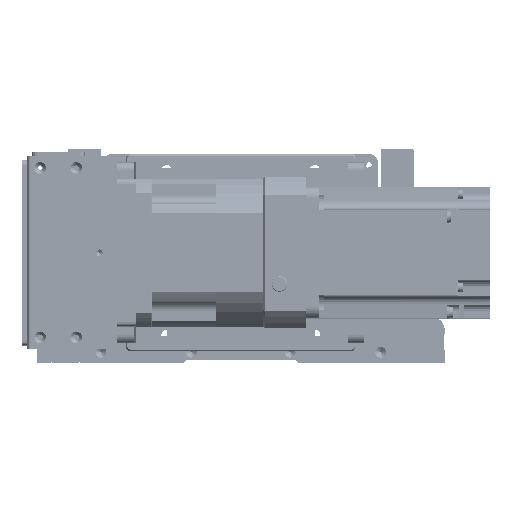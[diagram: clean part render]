
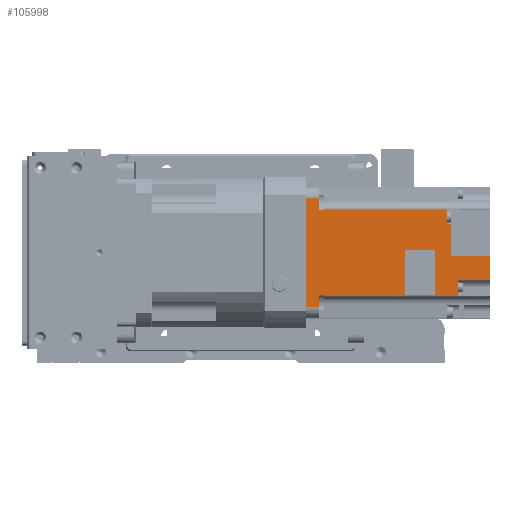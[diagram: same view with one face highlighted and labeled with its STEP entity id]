
A CAD part, front view. The second image highlights one B-rep face of the part: STEP entity #105998.
In plain terms, the highlighted planar face has unit normal (0, -1, 0.003).
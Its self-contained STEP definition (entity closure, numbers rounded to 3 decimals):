
#4772=PLANE('',#115152);
#11297=FACE_OUTER_BOUND('',#17511,.T.);
#17511=EDGE_LOOP('',(#89572,#89573,#89574,#89575,#89576,#89577,#89578,#89579,
#89580,#89581,#89582,#89583,#89584,#89585,#89586,#89587,#89588,#89589,#89590,
#89591,#89592,#89593,#89594,#89595,#89596,#89597));
#25786=LINE('',#169807,#37484);
#25787=LINE('',#169810,#37485);
#25792=LINE('',#169852,#37490);
#25796=LINE('',#169881,#37494);
#25799=LINE('',#169892,#37497);
#25800=LINE('',#169896,#37498);
#25801=LINE('',#169898,#37499);
#25802=LINE('',#169899,#37500);
#25803=LINE('',#169901,#37501);
#25804=LINE('',#169903,#37502);
#25805=LINE('',#169905,#37503);
#25806=LINE('',#169906,#37504);
#25807=LINE('',#169908,#37505);
#25808=LINE('',#169910,#37506);
#25809=LINE('',#169912,#37507);
#25810=LINE('',#169914,#37508);
#25811=LINE('',#169916,#37509);
#25812=LINE('',#169918,#37510);
#25813=LINE('',#169920,#37511);
#25814=LINE('',#169922,#37512);
#25815=LINE('',#169924,#37513);
#25816=LINE('',#169926,#37514);
#25817=LINE('',#169928,#37515);
#25818=LINE('',#169930,#37516);
#25819=LINE('',#169932,#37517);
#25820=LINE('',#169933,#37518);
#37484=VECTOR('',#135828,3.);
#37485=VECTOR('',#135831,0.009);
#37490=VECTOR('',#135870,0.009);
#37494=VECTOR('',#135900,7.342);
#37497=VECTOR('',#135911,8.);
#37498=VECTOR('',#135914,2.548);
#37499=VECTOR('',#135915,2.682);
#37500=VECTOR('',#135916,75.);
#37501=VECTOR('',#135917,66.);
#37502=VECTOR('',#135918,8.);
#37503=VECTOR('',#135919,7.342);
#37504=VECTOR('',#135920,3.);
#37505=VECTOR('',#135921,49.1);
#37506=VECTOR('',#135922,27.466);
#37507=VECTOR('',#135923,18.55);
#37508=VECTOR('',#135924,27.466);
#37509=VECTOR('',#135925,13.85);
#37510=VECTOR('',#135926,8.966);
#37511=VECTOR('',#135927,19.5);
#37512=VECTOR('',#135928,14.5);
#37513=VECTOR('',#135929,23.5);
#37514=VECTOR('',#135930,19.4);
#37515=VECTOR('',#135931,0.5);
#37516=VECTOR('',#135932,0.001);
#37517=VECTOR('',#135933,2.);
#37518=VECTOR('',#135934,3.238);
#52204=VERTEX_POINT('',#169801);
#52206=VERTEX_POINT('',#169805);
#52207=VERTEX_POINT('',#169809);
#52226=VERTEX_POINT('',#169849);
#52227=VERTEX_POINT('',#169851);
#52238=VERTEX_POINT('',#169878);
#52243=VERTEX_POINT('',#169890);
#52244=VERTEX_POINT('',#169894);
#52245=VERTEX_POINT('',#169895);
#52246=VERTEX_POINT('',#169897);
#52247=VERTEX_POINT('',#169900);
#52248=VERTEX_POINT('',#169902);
#52249=VERTEX_POINT('',#169904);
#52250=VERTEX_POINT('',#169907);
#52251=VERTEX_POINT('',#169909);
#52252=VERTEX_POINT('',#169911);
#52253=VERTEX_POINT('',#169913);
#52254=VERTEX_POINT('',#169915);
#52255=VERTEX_POINT('',#169917);
#52256=VERTEX_POINT('',#169919);
#52257=VERTEX_POINT('',#169921);
#52258=VERTEX_POINT('',#169923);
#52259=VERTEX_POINT('',#169925);
#52260=VERTEX_POINT('',#169927);
#52261=VERTEX_POINT('',#169929);
#52262=VERTEX_POINT('',#169931);
#65356=EDGE_CURVE('',#52206,#52204,#25786,.T.);
#65357=EDGE_CURVE('',#52204,#52207,#25787,.T.);
#65377=EDGE_CURVE('',#52226,#52227,#25792,.T.);
#65391=EDGE_CURVE('',#52206,#52238,#25796,.T.);
#65397=EDGE_CURVE('',#52238,#52243,#25799,.T.);
#65398=EDGE_CURVE('',#52244,#52245,#25800,.T.);
#65399=EDGE_CURVE('',#52246,#52244,#25801,.T.);
#65400=EDGE_CURVE('',#52246,#52207,#25802,.T.);
#65401=EDGE_CURVE('',#52243,#52247,#25803,.T.);
#65402=EDGE_CURVE('',#52247,#52248,#25804,.T.);
#65403=EDGE_CURVE('',#52248,#52249,#25805,.T.);
#65404=EDGE_CURVE('',#52249,#52227,#25806,.T.);
#65405=EDGE_CURVE('',#52250,#52226,#25807,.T.);
#65406=EDGE_CURVE('',#52250,#52251,#25808,.T.);
#65407=EDGE_CURVE('',#52251,#52252,#25809,.T.);
#65408=EDGE_CURVE('',#52253,#52252,#25810,.T.);
#65409=EDGE_CURVE('',#52253,#52254,#25811,.T.);
#65410=EDGE_CURVE('',#52255,#52254,#25812,.T.);
#65411=EDGE_CURVE('',#52256,#52255,#25813,.T.);
#65412=EDGE_CURVE('',#52256,#52257,#25814,.T.);
#65413=EDGE_CURVE('',#52257,#52258,#25815,.T.);
#65414=EDGE_CURVE('',#52258,#52259,#25816,.T.);
#65415=EDGE_CURVE('',#52259,#52260,#25817,.T.);
#65416=EDGE_CURVE('',#52261,#52260,#25818,.T.);
#65417=EDGE_CURVE('',#52261,#52262,#25819,.T.);
#65418=EDGE_CURVE('',#52245,#52262,#25820,.T.);
#89572=ORIENTED_EDGE('',*,*,#65398,.F.);
#89573=ORIENTED_EDGE('',*,*,#65399,.F.);
#89574=ORIENTED_EDGE('',*,*,#65400,.T.);
#89575=ORIENTED_EDGE('',*,*,#65357,.F.);
#89576=ORIENTED_EDGE('',*,*,#65356,.F.);
#89577=ORIENTED_EDGE('',*,*,#65391,.T.);
#89578=ORIENTED_EDGE('',*,*,#65397,.T.);
#89579=ORIENTED_EDGE('',*,*,#65401,.T.);
#89580=ORIENTED_EDGE('',*,*,#65402,.T.);
#89581=ORIENTED_EDGE('',*,*,#65403,.T.);
#89582=ORIENTED_EDGE('',*,*,#65404,.T.);
#89583=ORIENTED_EDGE('',*,*,#65377,.F.);
#89584=ORIENTED_EDGE('',*,*,#65405,.F.);
#89585=ORIENTED_EDGE('',*,*,#65406,.T.);
#89586=ORIENTED_EDGE('',*,*,#65407,.T.);
#89587=ORIENTED_EDGE('',*,*,#65408,.F.);
#89588=ORIENTED_EDGE('',*,*,#65409,.T.);
#89589=ORIENTED_EDGE('',*,*,#65410,.F.);
#89590=ORIENTED_EDGE('',*,*,#65411,.F.);
#89591=ORIENTED_EDGE('',*,*,#65412,.T.);
#89592=ORIENTED_EDGE('',*,*,#65413,.T.);
#89593=ORIENTED_EDGE('',*,*,#65414,.T.);
#89594=ORIENTED_EDGE('',*,*,#65415,.T.);
#89595=ORIENTED_EDGE('',*,*,#65416,.F.);
#89596=ORIENTED_EDGE('',*,*,#65417,.T.);
#89597=ORIENTED_EDGE('',*,*,#65418,.F.);
#105998=ADVANCED_FACE('',(#11297),#4772,.F.);
#115152=AXIS2_PLACEMENT_3D('',#169893,#135912,#135913);
#135828=DIRECTION('',(0.,0.,-1.));
#135831=DIRECTION('',(1.,0.,0.));
#135870=DIRECTION('',(1.,0.,0.));
#135900=DIRECTION('',(1.,0.,0.));
#135911=DIRECTION('',(0.,0.,1.));
#135912=DIRECTION('center_axis',(0.,1.,0.));
#135913=DIRECTION('ref_axis',(1.,0.,0.));
#135914=DIRECTION('',(-1.,0.,0.));
#135915=DIRECTION('',(-1.,0.,0.));
#135916=DIRECTION('',(0.,0.,1.));
#135917=DIRECTION('',(-1.,0.,0.));
#135918=DIRECTION('',(0.,0.,-1.));
#135919=DIRECTION('',(1.,0.,0.));
#135920=DIRECTION('',(0.,0.,-1.));
#135921=DIRECTION('',(0.,0.,1.));
#135922=DIRECTION('',(1.,0.,0.));
#135923=DIRECTION('',(0.,0.,-1.));
#135924=DIRECTION('',(1.,0.,0.));
#135925=DIRECTION('',(0.,0.,-1.));
#135926=DIRECTION('',(-1.,0.,0.));
#135927=DIRECTION('',(0.,0.,1.));
#135928=DIRECTION('',(1.,0.,0.));
#135929=DIRECTION('',(0.,0.,1.));
#135930=DIRECTION('',(1.,0.,0.));
#135931=DIRECTION('',(0.,0.,1.));
#135932=DIRECTION('',(1.,0.,0.));
#135933=DIRECTION('',(0.,0.,1.));
#135934=DIRECTION('',(-1.,0.,0.));
#169801=CARTESIAN_POINT('',(25.658,-40.,-11.));
#169805=CARTESIAN_POINT('',(25.658,-40.,-8.));
#169807=CARTESIAN_POINT('',(25.658,-40.,-8.));
#169809=CARTESIAN_POINT('',(25.666,-40.,-11.));
#169810=CARTESIAN_POINT('',(25.658,-40.,-11.));
#169849=CARTESIAN_POINT('',(-25.666,-40.,-11.));
#169851=CARTESIAN_POINT('',(-25.658,-40.,-11.));
#169852=CARTESIAN_POINT('',(-25.666,-40.,-11.));
#169878=CARTESIAN_POINT('',(33.,-40.,-8.));
#169881=CARTESIAN_POINT('',(25.658,-40.,-8.));
#169890=CARTESIAN_POINT('',(33.,-40.,0.));
#169892=CARTESIAN_POINT('',(33.,-40.,-8.));
#169893=CARTESIAN_POINT('Origin',(0.,-40.,-5.5));
#169894=CARTESIAN_POINT('',(22.985,-40.,-86.));
#169895=CARTESIAN_POINT('',(20.437,-40.,-86.));
#169896=CARTESIAN_POINT('',(22.985,-40.,-86.));
#169897=CARTESIAN_POINT('',(25.666,-40.,-86.));
#169898=CARTESIAN_POINT('',(25.666,-40.,-86.));
#169899=CARTESIAN_POINT('',(25.666,-40.,-86.));
#169900=CARTESIAN_POINT('',(-33.,-40.,0.));
#169901=CARTESIAN_POINT('',(33.,-40.,0.));
#169902=CARTESIAN_POINT('',(-33.,-40.,-8.));
#169903=CARTESIAN_POINT('',(-33.,-40.,0.));
#169904=CARTESIAN_POINT('',(-25.658,-40.,-8.));
#169905=CARTESIAN_POINT('',(-33.,-40.,-8.));
#169906=CARTESIAN_POINT('',(-25.658,-40.,-8.));
#169907=CARTESIAN_POINT('',(-25.666,-40.,-60.1));
#169908=CARTESIAN_POINT('',(-25.666,-40.,-60.1));
#169909=CARTESIAN_POINT('',(1.8,-40.,-60.1));
#169910=CARTESIAN_POINT('',(-25.666,-40.,-60.1));
#169911=CARTESIAN_POINT('',(1.8,-40.,-78.65));
#169912=CARTESIAN_POINT('',(1.8,-40.,-60.1));
#169913=CARTESIAN_POINT('',(-25.666,-40.,-78.65));
#169914=CARTESIAN_POINT('',(-25.666,-40.,-78.65));
#169915=CARTESIAN_POINT('',(-25.666,-40.,-92.5));
#169916=CARTESIAN_POINT('',(-25.666,-40.,-78.65));
#169917=CARTESIAN_POINT('',(-16.7,-40.,-92.5));
#169918=CARTESIAN_POINT('',(-16.7,-40.,-92.5));
#169919=CARTESIAN_POINT('',(-16.7,-40.,-112.));
#169920=CARTESIAN_POINT('',(-16.7,-40.,-112.));
#169921=CARTESIAN_POINT('',(-2.2,-40.,-112.));
#169922=CARTESIAN_POINT('',(-16.7,-40.,-112.));
#169923=CARTESIAN_POINT('',(-2.2,-40.,-88.5));
#169924=CARTESIAN_POINT('',(-2.2,-40.,-112.));
#169925=CARTESIAN_POINT('',(17.2,-40.,-88.5));
#169926=CARTESIAN_POINT('',(-2.2,-40.,-88.5));
#169927=CARTESIAN_POINT('',(17.2,-40.,-88.));
#169928=CARTESIAN_POINT('',(17.2,-40.,-88.5));
#169929=CARTESIAN_POINT('',(17.199,-40.,-88.));
#169930=CARTESIAN_POINT('',(17.199,-40.,-88.));
#169931=CARTESIAN_POINT('',(17.199,-40.,-86.));
#169932=CARTESIAN_POINT('',(17.199,-40.,-88.));
#169933=CARTESIAN_POINT('',(20.437,-40.,-86.));
